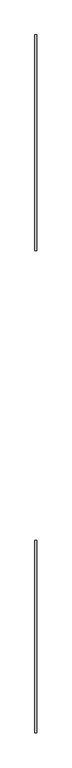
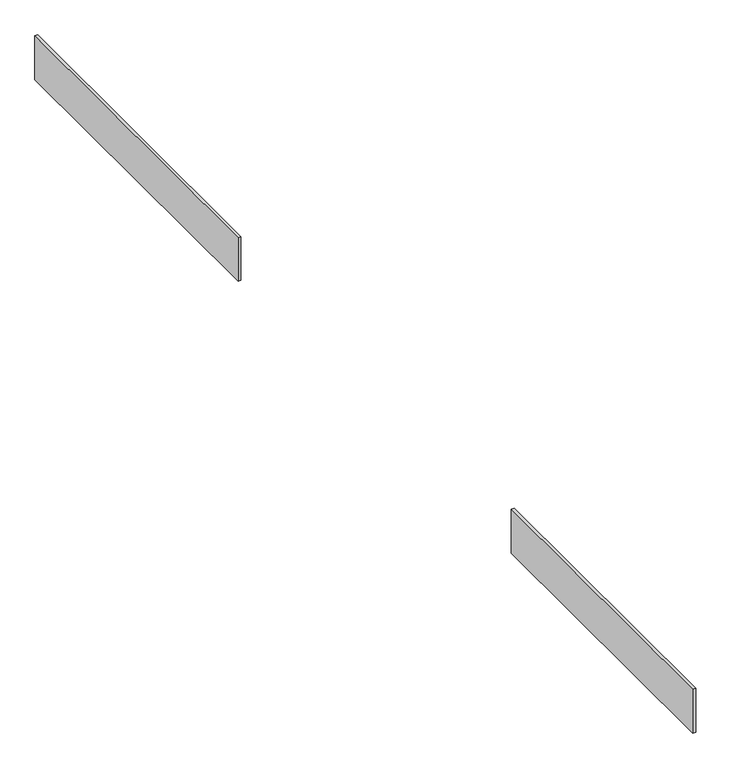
"""IFC4 building model written with IfcOpenShell, lengths in millimetres: proxy geometry, Modèles génériques 5 : Modèles génériques 5."""

from ifc_helpers import new_model, si_unit, frame, origin, place, context, project, spatial, polyline, outline, extrude, source, transform, mapped, element, save


def generic_models_51e1ae60(model_context):
    return source(origin(), model_context, "Body", "SweptSolid", [
        extrude(outline(polyline([(-28950.0011024, -34559.0543071), (-28950.0011024, -35779.054307), (-28960.0011024, -35779.054307), (-28960.0011024, -34559.0543071), (-28950.0011024, -34559.0543071)])), frame((0.0, 0.0, 1238.3082742), z_axis=(0.0, 0.0, 1.0), x_axis=(1.0, 0.0, 0.0)), (0.0, 0.0, 1.0), 160.1375205),
        extrude(outline(polyline([(-28950.0011024, -37420.6844783), (-28950.0011024, -38509.0543071), (-28960.0011024, -38509.0543071), (-28960.0011024, -37420.6844783), (-28950.0011024, -37420.6844783)])), frame((0.0, 0.0, 1238.3082742), z_axis=(0.0, 0.0, 1.0), x_axis=(1.0, 0.0, 0.0)), (0.0, 0.0, 1.0), 160.1375205),
    ])


if __name__ == "__main__":
    model = new_model("IFC4")
    model_context = context("Model", 3, world=origin())
    ifc_project = project(units=[si_unit("LENGTHUNIT", "METRE", prefix="MILLI")], contexts=[model_context])
    site = spatial("IfcSite", under=ifc_project)
    building = spatial("IfcBuilding", under=site)
    placement = place(None, origin())
    generic_models_shape = generic_models_51e1ae60(model_context)
    element("IfcBuildingElementProxy", 1, Name="Modèles génériques 5 : Modèles génériques 5", ObjectType="Modèles génériques 5 : Modèles génériques 5", at=placement, inside=building, context=model_context, shape_type="MappedRepresentation", body=[
        mapped(generic_models_shape, transform((0.0, 0.0, 0.0), x_axis=(1.0, 0.0, 0.0), y_axis=(0.0, 1.0, 0.0), z_axis=(0.0, 0.0, 1.0))),
    ])
    save(model, "model.ifc")
